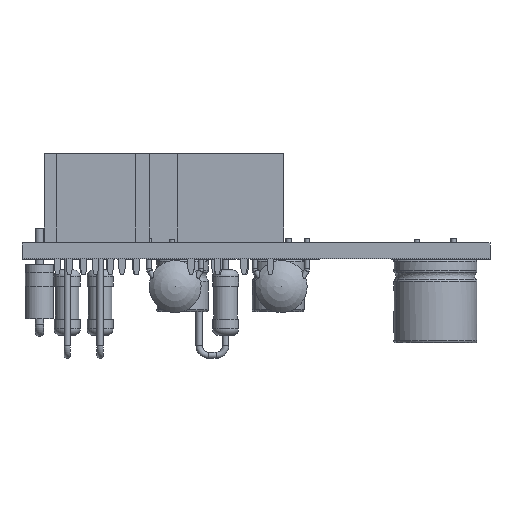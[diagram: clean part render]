
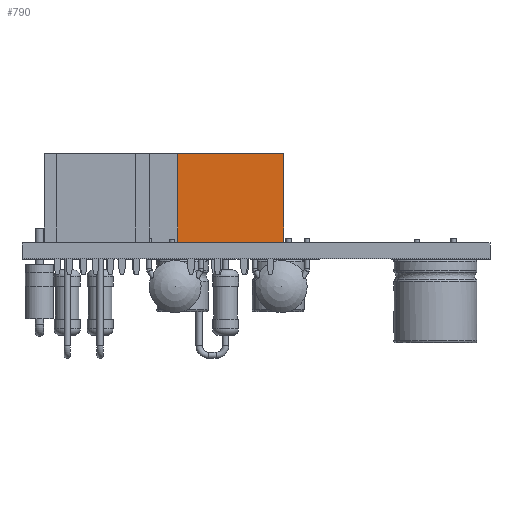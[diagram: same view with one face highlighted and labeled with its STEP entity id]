
A CAD part, left-side view. The second image highlights one B-rep face of the part: STEP entity #790.
In plain terms, the highlighted planar face has unit normal (-1, 0, 0).
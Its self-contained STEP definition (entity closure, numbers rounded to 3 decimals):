
#167 = VERTEX_POINT('',#168);
#168 = CARTESIAN_POINT('',(-1.27,-8.89,0.));
#176 = EDGE_CURVE('',#167,#177,#179,.T.);
#177 = VERTEX_POINT('',#178);
#178 = CARTESIAN_POINT('',(-1.27,-8.89,8.5));
#179 = LINE('',#180,#181);
#180 = CARTESIAN_POINT('',(-1.27,-8.89,0.));
#181 = VECTOR('',#182,1.);
#182 = DIRECTION('',(0.,0.,1.));
#239 = VERTEX_POINT('',#240);
#240 = CARTESIAN_POINT('',(-1.27,1.27,8.5));
#246 = EDGE_CURVE('',#247,#239,#249,.T.);
#247 = VERTEX_POINT('',#248);
#248 = CARTESIAN_POINT('',(-1.27,1.27,0.));
#249 = LINE('',#250,#251);
#250 = CARTESIAN_POINT('',(-1.27,1.27,0.));
#251 = VECTOR('',#252,1.);
#252 = DIRECTION('',(0.,0.,1.));
#311 = EDGE_CURVE('',#239,#177,#312,.T.);
#312 = LINE('',#313,#314);
#313 = CARTESIAN_POINT('',(-1.27,1.27,8.5));
#314 = VECTOR('',#315,1.);
#315 = DIRECTION('',(0.,-1.,0.));
#470 = EDGE_CURVE('',#247,#167,#471,.T.);
#471 = LINE('',#472,#473);
#472 = CARTESIAN_POINT('',(-1.27,1.27,0.));
#473 = VECTOR('',#474,1.);
#474 = DIRECTION('',(0.,-1.,0.));
#790 = ADVANCED_FACE('',(#791),#797,.F.);
#791 = FACE_BOUND('',#792,.F.);
#792 = EDGE_LOOP('',(#793,#794,#795,#796));
#793 = ORIENTED_EDGE('',*,*,#246,.T.);
#794 = ORIENTED_EDGE('',*,*,#311,.T.);
#795 = ORIENTED_EDGE('',*,*,#176,.F.);
#796 = ORIENTED_EDGE('',*,*,#470,.F.);
#797 = PLANE('',#798);
#798 = AXIS2_PLACEMENT_3D('',#799,#800,#801);
#799 = CARTESIAN_POINT('',(-1.27,1.27,0.));
#800 = DIRECTION('',(1.,0.,0.));
#801 = DIRECTION('',(0.,-1.,0.));
